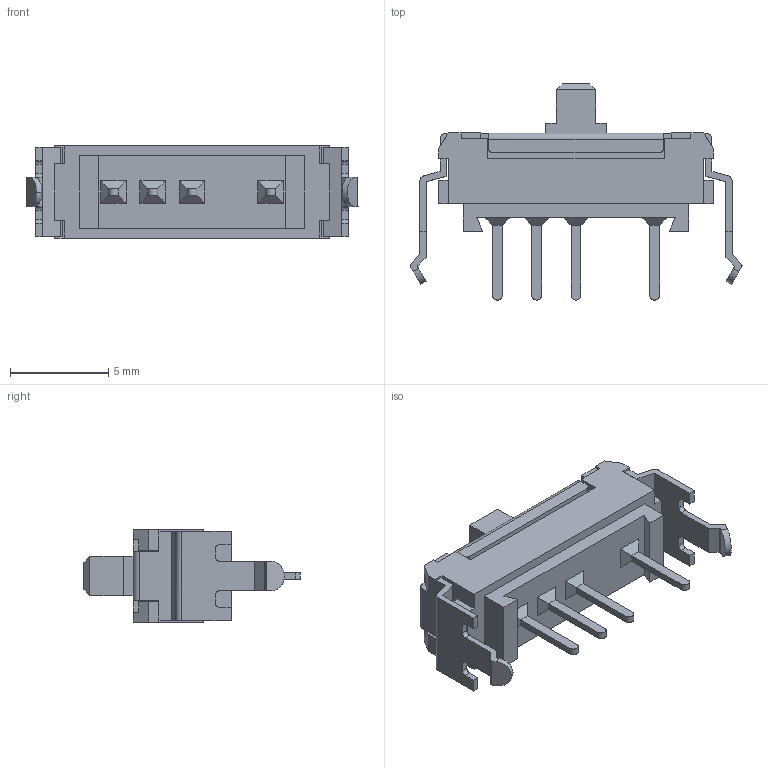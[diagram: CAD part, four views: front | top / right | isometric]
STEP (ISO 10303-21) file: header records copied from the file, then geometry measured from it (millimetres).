
FILE_DESCRIPTION (( 'STEP AP214' ), '1' );
FILE_NAME ('SSSS918500.STEP', '2011-12-08T10:14:51', ( ' ' ), ( '' ), 'SwSTEP 2.0', 'SolidWorks 2010', '' );
FILE_SCHEMA (( 'AUTOMOTIVE_DESIGN' ));
Length unit declared in the file: millimetre
Products named in the file (1): SSSS918500
Bounding box: 16.9 x 11 x 4.7 mm (x, y, z)
Volume: 284.2 mm3; surface area: 484.1 mm2
Topology: 1 solids, 1 shells, 217 faces, 599 edges, 390 vertices
Faces by surface type: plane 186, cylinder 31
Entity records: 9378 total; most frequent: CARTESIAN_POINT 1599, ORIENTED_EDGE 1198, DIRECTION 953, EDGE_CURVE 599, LINE 517, VECTOR 517, VERTEX_POINT 390, EDGE_LOOP 223
